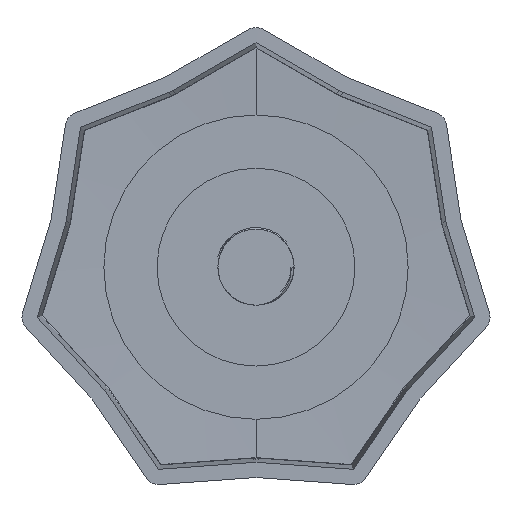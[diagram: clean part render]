
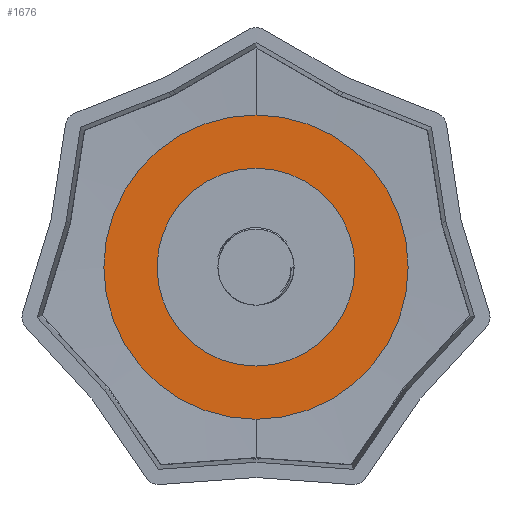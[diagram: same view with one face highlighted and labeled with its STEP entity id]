
A CAD part, front view. The second image highlights one B-rep face of the part: STEP entity #1676.
In plain terms, the highlighted planar face has unit normal (0, -1, 0).
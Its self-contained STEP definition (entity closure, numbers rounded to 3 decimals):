
#240 = ORIENTED_EDGE ( 'NONE', *, *, #2282, .F. ) ;
#271 = VERTEX_POINT ( 'NONE', #5953 ) ;
#331 = DIRECTION ( 'NONE',  ( 0., 0., 1. ) ) ;
#829 = CARTESIAN_POINT ( 'NONE',  ( 0., -2., 0. ) ) ;
#881 = ORIENTED_EDGE ( 'NONE', *, *, #7194, .F. ) ;
#1364 = AXIS2_PLACEMENT_3D ( 'NONE', #5625, #1622, #6319 ) ;
#1493 = DIRECTION ( 'NONE',  ( 0., 0., 1. ) ) ;
#1518 = EDGE_LOOP ( 'NONE', ( #4387, #4050 ) ) ;
#1622 = DIRECTION ( 'NONE',  ( 0., -1., 0. ) ) ;
#1629 = AXIS2_PLACEMENT_3D ( 'NONE', #829, #5485, #1493 ) ;
#1676 = ADVANCED_FACE ( 'NONE', ( #5131, #6520 ), #1695, .F. ) ;
#1695 = PLANE ( 'NONE',  #5710 ) ;
#1793 = AXIS2_PLACEMENT_3D ( 'NONE', #8314, #4308, #331 ) ;
#2005 = CIRCLE ( 'NONE', #1629, 20. ) ;
#2282 = EDGE_CURVE ( 'NONE', #2842, #6222, #6407, .T. ) ;
#2297 = EDGE_CURVE ( 'NONE', #271, #6764, #7955, .T. ) ;
#2363 = DIRECTION ( 'NONE',  ( 0., 1., 0. ) ) ;
#2567 = EDGE_CURVE ( 'NONE', #6764, #271, #2005, .T. ) ;
#2842 = VERTEX_POINT ( 'NONE', #6474 ) ;
#2866 = CARTESIAN_POINT ( 'NONE',  ( 0., -2., 0. ) ) ;
#3515 = DIRECTION ( 'NONE',  ( 0., 0., 1. ) ) ;
#4050 = ORIENTED_EDGE ( 'NONE', *, *, #2297, .F. ) ;
#4308 = DIRECTION ( 'NONE',  ( 0., 1., 0. ) ) ;
#4387 = ORIENTED_EDGE ( 'NONE', *, *, #2567, .F. ) ;
#4752 = CARTESIAN_POINT ( 'NONE',  ( 0., -2., -13. ) ) ;
#5100 = CIRCLE ( 'NONE', #7562, 13. ) ;
#5131 = FACE_OUTER_BOUND ( 'NONE', #1518, .T. ) ;
#5485 = DIRECTION ( 'NONE',  ( 0., 1., 0. ) ) ;
#5625 = CARTESIAN_POINT ( 'NONE',  ( 0., -2., 0. ) ) ;
#5710 = AXIS2_PLACEMENT_3D ( 'NONE', #8296, #2363, #7055 ) ;
#5953 = CARTESIAN_POINT ( 'NONE',  ( 0., -2., 20. ) ) ;
#6222 = VERTEX_POINT ( 'NONE', #4752 ) ;
#6319 = DIRECTION ( 'NONE',  ( 0., 0., 1. ) ) ;
#6407 = CIRCLE ( 'NONE', #1364, 13. ) ;
#6474 = CARTESIAN_POINT ( 'NONE',  ( 0., -2., 13. ) ) ;
#6520 = FACE_BOUND ( 'NONE', #7218, .T. ) ;
#6764 = VERTEX_POINT ( 'NONE', #8175 ) ;
#7055 = DIRECTION ( 'NONE',  ( 0., 0., 1. ) ) ;
#7194 = EDGE_CURVE ( 'NONE', #6222, #2842, #5100, .T. ) ;
#7218 = EDGE_LOOP ( 'NONE', ( #240, #881 ) ) ;
#7549 = DIRECTION ( 'NONE',  ( 0., -1., 0. ) ) ;
#7562 = AXIS2_PLACEMENT_3D ( 'NONE', #2866, #7549, #3515 ) ;
#7955 = CIRCLE ( 'NONE', #1793, 20. ) ;
#8175 = CARTESIAN_POINT ( 'NONE',  ( 0., -2., -20. ) ) ;
#8296 = CARTESIAN_POINT ( 'NONE',  ( 0., -2., 0. ) ) ;
#8314 = CARTESIAN_POINT ( 'NONE',  ( 0., -2., 0. ) ) ;
